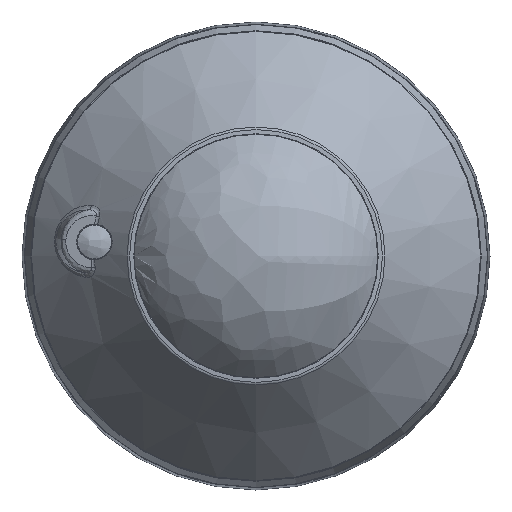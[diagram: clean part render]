
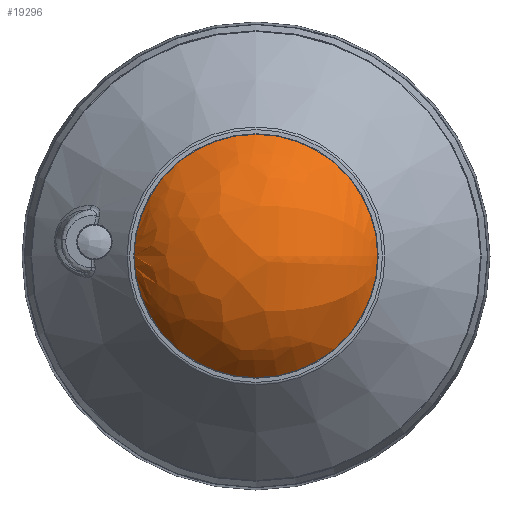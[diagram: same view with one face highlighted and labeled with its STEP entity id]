
A CAD part, front view. The second image highlights one B-rep face of the part: STEP entity #19296.
In plain terms, the highlighted free-form (B-spline) face has degree [3, 3] with [4, 7] control points.
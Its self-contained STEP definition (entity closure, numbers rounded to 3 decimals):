
#188 = CARTESIAN_POINT ( 'NONE',  ( -20.819, 11.064, -14.16 ) ) ;
#316 = CARTESIAN_POINT ( 'NONE',  ( -3.968, -11.697, -14.16 ) ) ;
#554 = CARTESIAN_POINT ( 'NONE',  ( 2.841, -6.656, -11.572 ) ) ;
#2158 = CARTESIAN_POINT ( 'NONE',  ( -9.698, -15.94, -8.904 ) ) ;
#2944 = DIRECTION ( 'NONE',  ( -1., 0., 0. ) ) ;
#3763 = CARTESIAN_POINT ( 'NONE',  ( -9.617, -16.103, 0. ) ) ;
#3891 = VERTEX_POINT ( 'NONE', #3763 ) ;
#3983 = CARTESIAN_POINT ( 'NONE',  ( 12.883, -34.459, 14.16 ) ) ;
#4102 = CARTESIAN_POINT ( 'NONE',  ( 2.841, -6.656, 11.572 ) ) ;
#4229 = CARTESIAN_POINT ( 'NONE',  ( -3.968, -11.697, 14.16 ) ) ;
#4345 = CARTESIAN_POINT ( 'NONE',  ( -10.931, 11.945, -11.572 ) ) ;
#5454 = CARTESIAN_POINT ( 'NONE',  ( 0., -16.103, 0. ) ) ;
#5701 = CARTESIAN_POINT ( 'NONE',  ( -3.968, -11.697, -14.16 ) ) ;
#6079 = CARTESIAN_POINT ( 'NONE',  ( -10.931, 11.945, 11.572 ) ) ;
#6101 = CARTESIAN_POINT ( 'NONE',  ( 0.898, -30.252, 8.904 ) ) ;
#6348 = CARTESIAN_POINT ( 'NONE',  ( -9.779, -15.886, -0.046 ) ) ;
#7701 = CARTESIAN_POINT ( 'NONE',  ( -9.698, -15.94, 8.904 ) ) ;
#8189 = CARTESIAN_POINT ( 'NONE',  ( -9.725, -15.96, 0.046 ) ) ;
#9781 = CARTESIAN_POINT ( 'NONE',  ( -9.671, -16.033, -0.046 ) ) ;
#10023 = CARTESIAN_POINT ( 'NONE',  ( -9.671, -16.033, 0.046 ) ) ;
#10938 = ORIENTED_EDGE ( 'NONE', *, *, #19758, .F. ) ;
#11372 = EDGE_LOOP ( 'NONE', ( #10938 ) ) ;
#11620 = FACE_OUTER_BOUND ( 'NONE', #11372, .T. ) ;
#12818 = AXIS2_PLACEMENT_3D ( 'NONE', #5454, #18571, #2944 ) ;
#13439 = CARTESIAN_POINT ( 'NONE',  ( 12.883, -34.459, -14.16 ) ) ;
#13819 = CARTESIAN_POINT ( 'NONE',  ( -9.725, -15.96, -0.046 ) ) ;
#15189 = CARTESIAN_POINT ( 'NONE',  ( -20.294, -1.628, 8.904 ) ) ;
#17257 = CARTESIAN_POINT ( 'NONE',  ( -9.779, -15.886, 0.046 ) ) ;
#17353 = CARTESIAN_POINT ( 'NONE',  ( 16.613, -25.258, -11.572 ) ) ;
#17616 = CARTESIAN_POINT ( 'NONE',  ( 0.898, -30.252, -8.904 ) ) ;
#18169 =( BOUNDED_SURFACE ( )  B_SPLINE_SURFACE ( 3, 3, ( 
 ( #18967, #9781, #10023, #8189, #17257, #6348, #13819 ),
 ( #22893, #17616, #6101, #7701, #15189, #22650, #2158 ),
 ( #316, #13439, #3983, #4229, #20905, #188, #5701 ),
 ( #554, #17353, #18947, #4102, #6079, #4345, #22631 ) ),
 .UNSPECIFIED., .F., .T., .T. ) 
 B_SPLINE_SURFACE_WITH_KNOTS ( ( 4, 4 ),
 ( 4, 3, 4 ),
 ( 0., 1. ),
 ( 0., 0.5, 1. ),
 .UNSPECIFIED. ) 
 GEOMETRIC_REPRESENTATION_ITEM ( )  RATIONAL_B_SPLINE_SURFACE ( (
 ( 1., 0.333, 0.333, 1., 0.333, 0.333, 1.),
 ( 0.731, 0.244, 0.244, 0.731, 0.244, 0.244, 0.731),
 ( 0.731, 0.244, 0.244, 0.731, 0.244, 0.244, 0.731),
 ( 1., 0.333, 0.333, 1., 0.333, 0.333, 1.) ) ) 
 REPRESENTATION_ITEM ( '' )  SURFACE ( )  );
#18571 = DIRECTION ( 'NONE',  ( 0., 1., 0. ) ) ;
#18947 = CARTESIAN_POINT ( 'NONE',  ( 16.613, -25.258, 11.572 ) ) ;
#18967 = CARTESIAN_POINT ( 'NONE',  ( -9.725, -15.96, -0.046 ) ) ;
#19296 = ADVANCED_FACE ( 'NONE', ( #11620 ), #18169, .T. ) ;
#19758 = EDGE_CURVE ( 'NONE', #3891, #3891, #22209, .T. ) ;
#20905 = CARTESIAN_POINT ( 'NONE',  ( -20.819, 11.064, 14.16 ) ) ;
#22209 = CIRCLE ( 'NONE', #12818, 9.617 ) ;
#22631 = CARTESIAN_POINT ( 'NONE',  ( 2.841, -6.656, -11.572 ) ) ;
#22650 = CARTESIAN_POINT ( 'NONE',  ( -20.294, -1.628, -8.904 ) ) ;
#22893 = CARTESIAN_POINT ( 'NONE',  ( -9.698, -15.94, -8.904 ) ) ;
